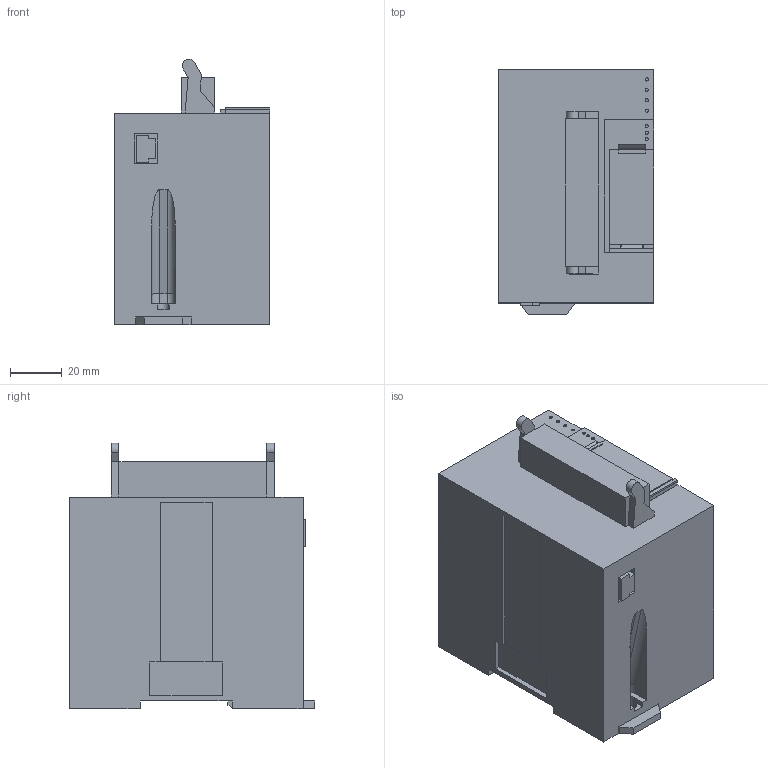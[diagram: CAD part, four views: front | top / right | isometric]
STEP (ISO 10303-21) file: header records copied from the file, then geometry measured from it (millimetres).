
FILE_DESCRIPTION(/* description */ (''),/* implementation_level */ '2;1');
FILE_NAME(/* name */ 'fx5-4lc_a.stp',/* time_stamp */ '2017-03-01T09:10:20+09:00',/* author */ (''),/* organization */ (''),/* preprocessor_version */ 'ST-DEVELOPER v15',/* originating_system */ 'SIEMENS PLM Software NX 9.0',/* authorisation */ '');
FILE_SCHEMA (('CONFIG_CONTROL_DESIGN'));
Length unit declared in the file: millimetre
Products named in the file (4): SLIDER_4lc; fx5-4lc_prt; COVER_4lc; fx5-4lc_a
Assembly tree (3 placements, depth 2):
  fx5-4lc_a
    COVER_4lc
    fx5-4lc_prt
    SLIDER_4lc
Bounding box: 60 x 94.5 x 102.2 mm (x, y, z)
Volume: 434829 mm3; surface area: 44925.6 mm2
Topology: 3 solids, 3 shells, 221 faces, 600 edges, 400 vertices
Faces by surface type: plane 187, cylinder 34
Entity records: 7339 total; most frequent: CARTESIAN_POINT 1259, ORIENTED_EDGE 1200, DIRECTION 1118, EDGE_CURVE 600, LINE 528, VECTOR 528, VERTEX_POINT 400, AXIS2_PLACEMENT_3D 295
